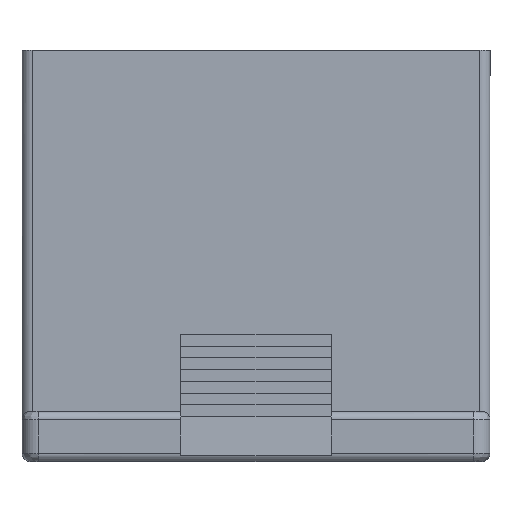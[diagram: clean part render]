
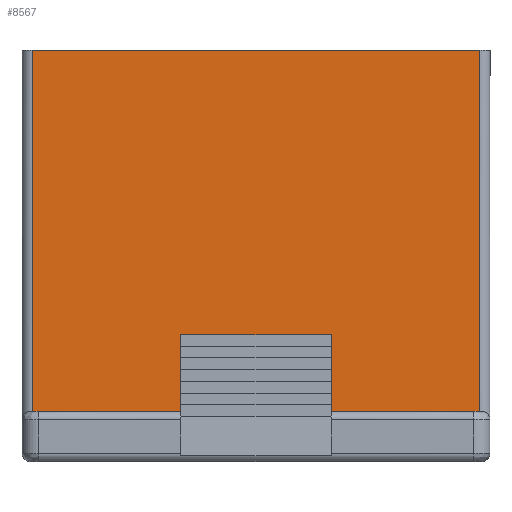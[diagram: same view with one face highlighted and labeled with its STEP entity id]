
A CAD part, front view. The second image highlights one B-rep face of the part: STEP entity #8567.
In plain terms, the highlighted planar face has unit normal (0, -1, 0).
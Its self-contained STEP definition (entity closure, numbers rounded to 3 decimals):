
#275=DIRECTION('',(-1.,0.,0.));
#276=VECTOR('',#275,26.8);
#277=CARTESIAN_POINT('',(13.4,0.,0.));
#278=LINE('',#277,#276);
#792=DIRECTION('',(0.,0.,1.));
#793=VECTOR('',#792,4.6);
#794=CARTESIAN_POINT('',(-4.5,0.,-21.6));
#795=LINE('',#794,#793);
#905=DIRECTION('',(-1.,0.,0.));
#906=VECTOR('',#905,8.9);
#907=CARTESIAN_POINT('',(-4.5,0.,-21.6));
#908=LINE('',#907,#906);
#912=DIRECTION('',(0.,0.,1.));
#913=VECTOR('',#912,21.6);
#914=CARTESIAN_POINT('',(-13.4,0.,-21.6));
#915=LINE('',#914,#913);
#919=DIRECTION('',(0.,0.,-1.));
#920=VECTOR('',#919,21.6);
#921=CARTESIAN_POINT('',(13.4,0.,0.));
#922=LINE('',#921,#920);
#926=DIRECTION('',(-1.,0.,0.));
#927=VECTOR('',#926,8.9);
#928=CARTESIAN_POINT('',(13.4,0.,-21.6));
#929=LINE('',#928,#927);
#933=DIRECTION('',(0.,0.,1.));
#934=VECTOR('',#933,4.6);
#935=CARTESIAN_POINT('',(4.5,0.,-21.6));
#936=LINE('',#935,#934);
#940=DIRECTION('',(-1.,0.,0.));
#941=VECTOR('',#940,9.);
#942=CARTESIAN_POINT('',(4.5,0.,-17.));
#943=LINE('',#942,#941);
#6994=CARTESIAN_POINT('',(13.4,0.,0.));
#6995=VERTEX_POINT('',#6994);
#6996=CARTESIAN_POINT('',(-13.4,0.,0.));
#6997=VERTEX_POINT('',#6996);
#7183=CARTESIAN_POINT('',(-13.4,0.,-21.6));
#7185=VERTEX_POINT('',#7183);
#7187=CARTESIAN_POINT('',(-4.5,0.,-21.6));
#7189=VERTEX_POINT('',#7187);
#7194=CARTESIAN_POINT('',(-4.5,0.,-17.));
#7195=VERTEX_POINT('',#7194);
#7224=CARTESIAN_POINT('',(13.4,0.,-21.6));
#7225=VERTEX_POINT('',#7224);
#7226=CARTESIAN_POINT('',(4.5,0.,-21.6));
#7227=VERTEX_POINT('',#7226);
#7228=CARTESIAN_POINT('',(4.5,0.,-17.));
#7229=VERTEX_POINT('',#7228);
#8548=CARTESIAN_POINT('',(0.,0.,-10.8));
#8549=DIRECTION('',(0.,1.,0.));
#8550=DIRECTION('',(0.,0.,1.));
#8551=AXIS2_PLACEMENT_3D('',#8548,#8549,#8550);
#8552=PLANE('',#8551);
#8553=ORIENTED_EDGE('',*,*,#8512,.F.);
#8554=ORIENTED_EDGE('',*,*,#8502,.T.);
#8555=ORIENTED_EDGE('',*,*,#8483,.T.);
#8556=ORIENTED_EDGE('',*,*,#8202,.F.);
#8558=ORIENTED_EDGE('',*,*,#8557,.T.);
#8560=ORIENTED_EDGE('',*,*,#8559,.T.);
#8562=ORIENTED_EDGE('',*,*,#8561,.T.);
#8564=ORIENTED_EDGE('',*,*,#8563,.T.);
#8565=EDGE_LOOP('',(#8553,#8554,#8555,#8556,#8558,#8560,#8562,#8564));
#8566=FACE_OUTER_BOUND('',#8565,.F.);
#8567=ADVANCED_FACE('',(#8566),#8552,.F.);
#8202=EDGE_CURVE('',#6995,#6997,#278,.T.);
#8483=EDGE_CURVE('',#7185,#6997,#915,.T.);
#8502=EDGE_CURVE('',#7189,#7185,#908,.T.);
#8512=EDGE_CURVE('',#7189,#7195,#795,.T.);
#8557=EDGE_CURVE('',#6995,#7225,#922,.T.);
#8559=EDGE_CURVE('',#7225,#7227,#929,.T.);
#8561=EDGE_CURVE('',#7227,#7229,#936,.T.);
#8563=EDGE_CURVE('',#7229,#7195,#943,.T.);
